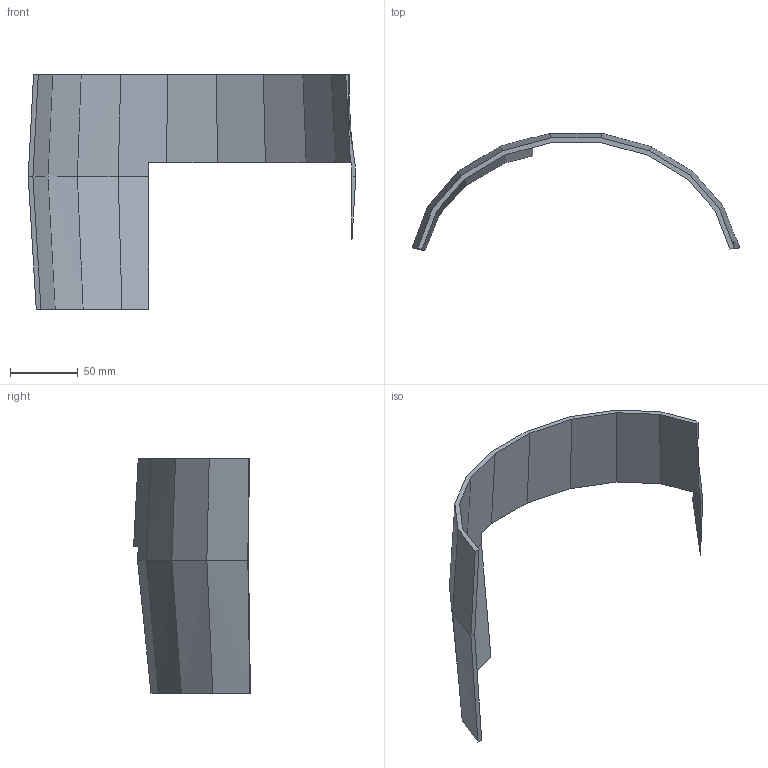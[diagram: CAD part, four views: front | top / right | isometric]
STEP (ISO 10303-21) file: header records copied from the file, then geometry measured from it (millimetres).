
FILE_DESCRIPTION(('Open CASCADE Model'),'2;1');
FILE_NAME('Open CASCADE Shape Model','2026-09-19T23:46:40',('Author'),( 'Open CASCADE'),'Open CASCADE STEP processor 7.9','Open CASCADE 7.9' ,'Unknown');
FILE_SCHEMA(('AUTOMOTIVE_DESIGN { 1 0 10303 214 1 1 1 1 }'));
Length unit declared in the file: millimetre
Products named in the file (1): Open CASCADE STEP translator 7.9 73
Bounding box: 241.63 x 86.17 x 173 mm (x, y, z)
Volume: 113769.2 mm3; surface area: 70028.3 mm2
Topology: 1 solids, 1 shells, 37 faces, 96 edges, 61 vertices
Faces by surface type: bspline 32, plane 5
Entity records: 2668 total; most frequent: CARTESIAN_POINT 1054, ORIENTED_EDGE 192, PCURVE 192, DEFINITIONAL_REPRESENTATION 192, DIRECTION 171, LINE 159, VECTOR 159, B_SPLINE_CURVE_WITH_KNOTS 129
